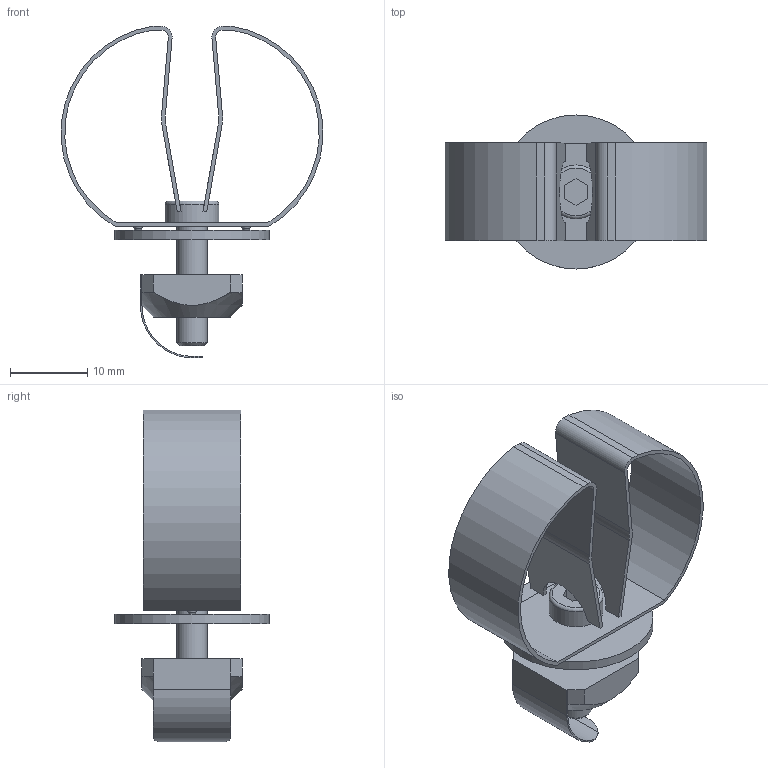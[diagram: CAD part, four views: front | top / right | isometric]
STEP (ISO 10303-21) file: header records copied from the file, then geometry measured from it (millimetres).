
FILE_DESCRIPTION((''),'2;1');
FILE_NAME('C:\Andys Backup Data\WEBSITE\DREAMWEAVER\MiniTec\Products\Modular_Workstations\CAD\Step\32.0537 ATTACHMENT CLIP 8.stp','2014-06-23T12:25:35',('Admin'),(''),'Autodesk Inventor 2012','Autodesk Inventor 2012','');
FILE_SCHEMA(('AUTOMOTIVE_DESIGN { 1 0 10303 214 1 1 1 1 }'));
Length unit declared in the file: millimetre
Products named in the file (1): 32.0537 ATTACHMENT CLIP 8
Bounding box: 33.98 x 20 x 43.05 mm (x, y, z)
Volume: 2267.3 mm3; surface area: 5247.2 mm2
Topology: 2 solids, 3 shells, 86 faces, 217 edges, 143 vertices
Faces by surface type: plane 51, cylinder 26, torus 7, cone 2
Full cylindrical faces by diameter (mm): 1 x2, 4 x2, 4.3 x1, 4.5 x1, 7 x1, 20 x1
Entity records: 2623 total; most frequent: CARTESIAN_POINT 479, DIRECTION 419, ORIENTED_EDGE 392, EDGE_CURVE 196, AXIS2_PLACEMENT_3D 149, VERTEX_POINT 138, VECTOR 121, LINE 121
